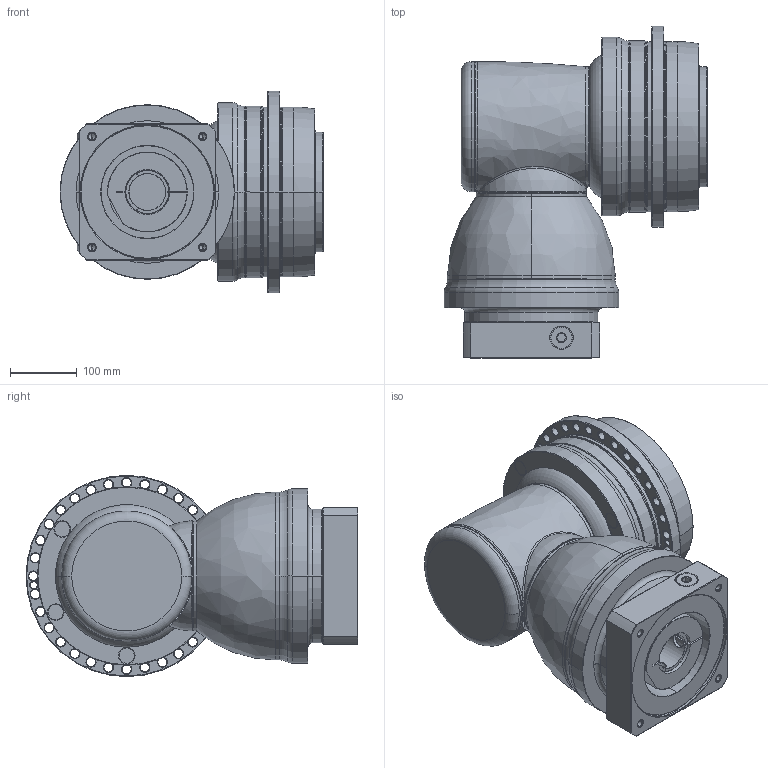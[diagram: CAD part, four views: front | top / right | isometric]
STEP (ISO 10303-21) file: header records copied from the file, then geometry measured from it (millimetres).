
FILE_DESCRIPTION((''),'2;1');
FILE_NAME('APK255_2ST_SBG_55-P0409C00201_ASM','2018-10-30T',('d01226'),(''),'PRO/ENGINEER BY PARAMETRIC TECHNOLOGY CORPORATION, 2015240','PRO/ENGINEER BY PARAMETRIC TECHNOLOGY CORPORATION, 2015240','');
FILE_SCHEMA(('CONFIG_CONTROL_DESIGN'));
Length unit declared in the file: millimetre
Products named in the file (13): P0278701003; P0359701103; P1211700001; P1802710001; P1018700002; P1365700001; P1007701001; P1318701401; P0503C00016; P0912704001; P0409C00201; 21711426021; APK255_2ST_SBG_55-P0409C00201_ASM
Assembly tree (12 placements, depth 2):
  APK255_2ST_SBG_55-P0409C00201_ASM
    P0278701003
    P0359701103
    P1211700001
    P1802710001
    P1018700002
    P1365700001
    P1007701001
    P1318701401
    P0503C00016
    P0912704001
    P0409C00201
    21711426021
Bounding box: 396 x 498 x 302 mm (x, y, z)
Volume: 24014969 mm3; surface area: 1544067.7 mm2
Topology: 13 solids, 36 shells, 858 faces, 2014 edges, 1212 vertices
Faces by surface type: cylinder 339, cone 265, plane 137, torus 85, bspline 31, sphere 1
Entity records: 30955 total; most frequent: CARTESIAN_POINT 10529, DIRECTION 4701, ORIENTED_EDGE 3856, AXIS2_PLACEMENT_3D 2015, EDGE_CURVE 1975, VERTEX_POINT 1212, CIRCLE 1151, EDGE_LOOP 1011
